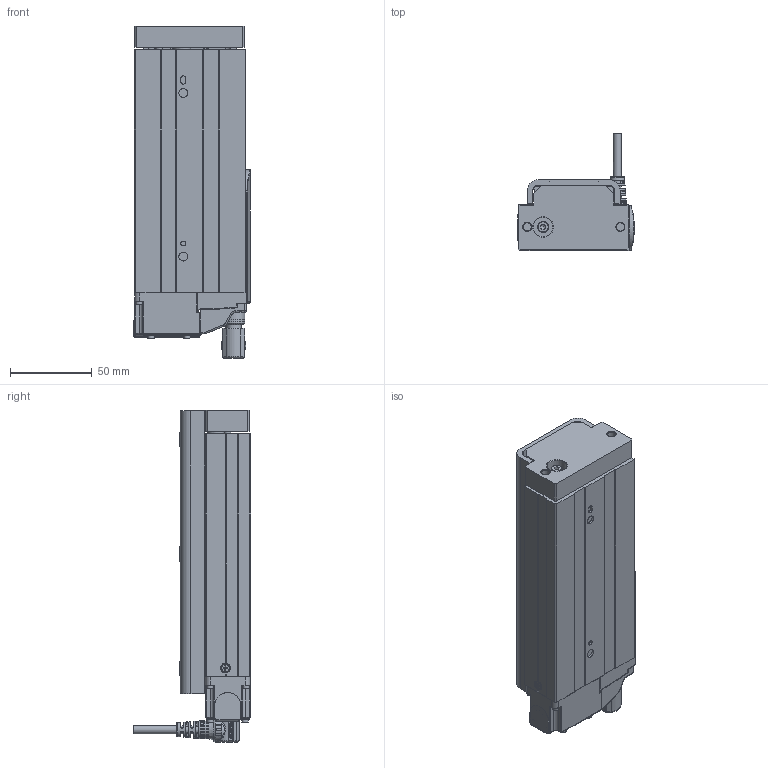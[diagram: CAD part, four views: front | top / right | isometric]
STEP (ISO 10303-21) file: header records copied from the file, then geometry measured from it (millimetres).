
FILE_DESCRIPTION(/* description */ ('STEP AP203'),/* implementation_level */ '2;1');
FILE_NAME(/* name */ 'D:\暫\2025.02.06 CSG 3D\CSG25-B\CSG25-S100-B-WW.stp',/* time_stamp */ '2025-02-08T10:40:59+08:00',/* author */ ('T10033'),/* organization */ (''),/* preprocessor_version */ 'ST-DEVELOPER v18.1',/* originating_system */ 'Autodesk Inventor 2020',/* authorisation */ '');
FILE_SCHEMA (('CONFIG_CONTROL_DESIGN','TECHNICAL_DATA_PACKAGING'));
Products named in the file (25): CSG25-50行程-煞車; ©T©wªO-·¥­­¾×ª
O4-M2¤ú; M12 -14PIN  ªOºÝ-²Ä¤@ºØ
³W®æ; countersunk flat head cross recess screw_iso_ISO 7046-1 - M2.5 x 4 - 
Z - 4N; ¶ì½¦ºÝ»-L¼Ë¦¡(TOYO)-°
t¦XPCB(·Ù¨®¥Î)-DF3±µÀYª½
±µ©ñ¤Jª©; IS 2269 - M2 x 10; ISO 4762 - M2.5 x 6ISO; PCB; 43T34 TFSDR_Shrinkwrap_1; M12-14PIN 線端90度接頭-05中繼線; 4T3T6WS34TE35Y; countersunk flat head cross recess screw_iso_ISO 7046-1 - M2.5 x 4 - 
Z - 4N_1; ©T©wªO-·¥­­¾×ª
O4-M2¤ú_1; socket head cap screw_iso_ISO 4762 M2.5 x 6 - 6N; socket head cap screw_iso_ISO 4762 M2.5 x 8 - 8N; socket head cap screw_iso_ISO 4762 M2 x 12 - 12N; M12 -14PIN  ªOºÝ-²Ä¤@ºØ
³W®æ_1; CSG25-50¥»Åé3ª©-ªo¤Õ
½Õ¾ã¨¤«×; CSG25-Carriage-newtype; Solid1-2; socket head cap screw_iso_ISO 4762 M2.5 x 5 - 5N; 12003-000221-­×§ï; 22024-000496; CNS 3932 - M 4 x 0.7 x 12; CNS 4558 - M5 x 0.8 x 12
Assembly tree (36 placements, depth 3):
  CSG25-50行程-煞車
    ©T©wªO-·¥­­¾×ª
O4-M2¤ú
    M12 -14PIN  ªOºÝ-²Ä¤@ºØ
³W®æ
    countersunk flat head cross recess screw_iso_ISO 7046-1 - M2.5 x 4 - 
Z - 4N
    ¶ì½¦ºÝ»-L¼Ë¦¡(TOYO)-°
t¦XPCB(·Ù¨®¥Î)-DF3±µÀYª½
±µ©ñ¤Jª©
    IS 2269 - M2 x 10  x2
    ISO 4762 - M2.5 x 6ISO  x2
    PCB
    43T34 TFSDR_Shrinkwrap_1
    M12-14PIN 線端90度接頭-05中繼線
    4T3T6WS34TE35Y
      socket head cap screw_iso_ISO 4762 M2.5 x 8 - 8N  x8
      countersunk flat head cross recess screw_iso_ISO 7046-1 - M2.5 x 4 - 
Z - 4N_1
      ©T©wªO-·¥­­¾×ª
O4-M2¤ú_1
      socket head cap screw_iso_ISO 4762 M2.5 x 6 - 6N  x2
      socket head cap screw_iso_ISO 4762 M2 x 12 - 12N  x2
      M12 -14PIN  ªOºÝ-²Ä¤@ºØ
³W®æ_1
      CSG25-50¥»Åé3ª©-ªo¤Õ
½Õ¾ã¨¤«×
      CSG25-Carriage-newtype
      Solid1-2
      socket head cap screw_iso_ISO 4762 M2.5 x 5 - 5N
      12003-000221-­×§ï
      22024-000496
      CNS 3932 - M 4 x 0.7 x 12
      CNS 4558 - M5 x 0.8 x 12  x2
Bounding box: 71.25 x 71.98 x 203 mm (x, y, z)
Volume: 429038.9 mm3; surface area: 108884.7 mm2
Topology: 50 solids, 58 shells, 3187 faces, 8672 edges, 5730 vertices
Faces by surface type: plane 1589, cylinder 626, bspline 482, cone 334, torus 146, sphere 10
Full cylindrical faces by diameter (mm): 0.6 x28, 0.65 x14, 1 x14, 1.567 x1, 1.6 x4, 2 x6, 2.05 x5, 2.5 x19, 2.9 x2, 3 x3, 3.8 x10, 4 x1, 4.134 x8, 4.5 x15, 4.7 x2, 5 x7, 5.3 x2, 5.4 x4, 5.5 x4, 6 x3, 7 x1, 8 x1, 8.9 x1, 9 x12, 9.5 x2, 9.6 x1, 10 x6, 10.4 x2, 10.5 x4, 10.9 x1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
Entity records: 121534 total; most frequent: CARTESIAN_POINT 44664, ORIENTED_EDGE 16076, DIRECTION 14901, EDGE_CURVE 8056, AXIS2_PLACEMENT_3D 5399, VERTEX_POINT 5351, LINE 4103, VECTOR 4103
